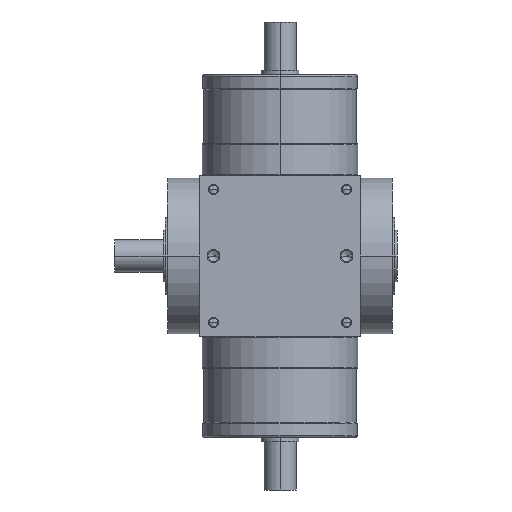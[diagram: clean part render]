
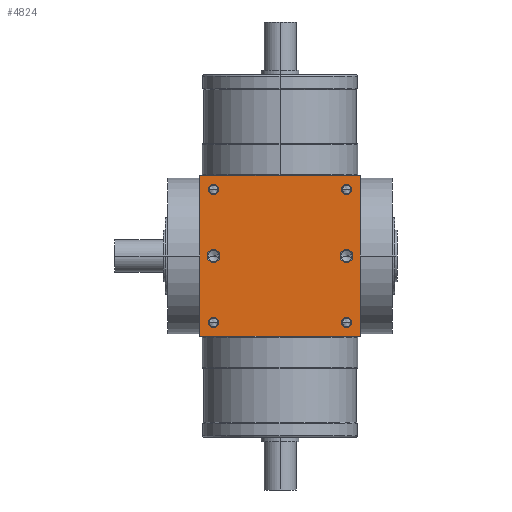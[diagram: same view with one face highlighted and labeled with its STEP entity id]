
A CAD part, front view. The second image highlights one B-rep face of the part: STEP entity #4824.
In plain terms, the highlighted planar face has unit normal (0, -1, 0).
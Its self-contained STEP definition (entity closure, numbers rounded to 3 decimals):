
#5=DIRECTION('',(1.,0.,0.));
#6=VECTOR('',#5,65.);
#7=CARTESIAN_POINT('',(-32.5,-32.5,-32.5));
#8=LINE('',#7,#6);
#165=DIRECTION('',(0.,0.,1.));
#166=VECTOR('',#165,65.);
#167=CARTESIAN_POINT('',(32.5,-32.5,-32.5));
#168=LINE('',#167,#166);
#219=DIRECTION('',(0.,0.,1.));
#220=VECTOR('',#219,65.);
#221=CARTESIAN_POINT('',(-32.5,-32.5,-32.5));
#222=LINE('',#221,#220);
#223=CARTESIAN_POINT('',(27.,-32.5,27.));
#224=DIRECTION('',(0.,1.,0.));
#225=DIRECTION('',(-1.,0.,0.));
#226=AXIS2_PLACEMENT_3D('',#223,#224,#225);
#228=CARTESIAN_POINT('',(27.,-32.5,27.));
#229=DIRECTION('',(0.,1.,0.));
#230=DIRECTION('',(1.,0.,0.));
#231=AXIS2_PLACEMENT_3D('',#228,#229,#230);
#233=CARTESIAN_POINT('',(-27.,-32.5,27.));
#234=DIRECTION('',(0.,1.,0.));
#235=DIRECTION('',(-1.,0.,0.));
#236=AXIS2_PLACEMENT_3D('',#233,#234,#235);
#238=CARTESIAN_POINT('',(-27.,-32.5,27.));
#239=DIRECTION('',(0.,1.,0.));
#240=DIRECTION('',(1.,0.,0.));
#241=AXIS2_PLACEMENT_3D('',#238,#239,#240);
#243=CARTESIAN_POINT('',(27.,-32.5,-27.));
#244=DIRECTION('',(0.,1.,0.));
#245=DIRECTION('',(-1.,0.,0.));
#246=AXIS2_PLACEMENT_3D('',#243,#244,#245);
#248=CARTESIAN_POINT('',(27.,-32.5,-27.));
#249=DIRECTION('',(0.,1.,0.));
#250=DIRECTION('',(1.,0.,0.));
#251=AXIS2_PLACEMENT_3D('',#248,#249,#250);
#253=CARTESIAN_POINT('',(-27.,-32.5,-27.));
#254=DIRECTION('',(0.,1.,0.));
#255=DIRECTION('',(-1.,0.,0.));
#256=AXIS2_PLACEMENT_3D('',#253,#254,#255);
#258=CARTESIAN_POINT('',(-27.,-32.5,-27.));
#259=DIRECTION('',(0.,1.,0.));
#260=DIRECTION('',(1.,0.,0.));
#261=AXIS2_PLACEMENT_3D('',#258,#259,#260);
#263=CARTESIAN_POINT('',(-27.,-32.5,0.));
#264=DIRECTION('',(0.,1.,0.));
#265=DIRECTION('',(1.,0.,0.));
#266=AXIS2_PLACEMENT_3D('',#263,#264,#265);
#268=CARTESIAN_POINT('',(-27.,-32.5,0.));
#269=DIRECTION('',(0.,1.,0.));
#270=DIRECTION('',(-1.,0.,0.));
#271=AXIS2_PLACEMENT_3D('',#268,#269,#270);
#273=CARTESIAN_POINT('',(27.,-32.5,0.));
#274=DIRECTION('',(0.,1.,0.));
#275=DIRECTION('',(1.,0.,0.));
#276=AXIS2_PLACEMENT_3D('',#273,#274,#275);
#278=CARTESIAN_POINT('',(27.,-32.5,0.));
#279=DIRECTION('',(0.,1.,0.));
#280=DIRECTION('',(-1.,0.,0.));
#281=AXIS2_PLACEMENT_3D('',#278,#279,#280);
#295=DIRECTION('',(1.,0.,0.));
#296=VECTOR('',#295,65.);
#297=CARTESIAN_POINT('',(-32.5,-32.5,32.5));
#298=LINE('',#297,#296);
#3846=CARTESIAN_POINT('',(-32.5,-32.5,-32.5));
#3848=VERTEX_POINT('',#3846);
#3849=CARTESIAN_POINT('',(32.5,-32.5,-32.5));
#3850=VERTEX_POINT('',#3849);
#3854=CARTESIAN_POINT('',(-32.5,-32.5,32.5));
#3856=VERTEX_POINT('',#3854);
#3857=CARTESIAN_POINT('',(32.5,-32.5,32.5));
#3858=VERTEX_POINT('',#3857);
#4029=CARTESIAN_POINT('',(24.95,-32.5,27.));
#4030=CARTESIAN_POINT('',(29.05,-32.5,27.));
#4031=VERTEX_POINT('',#4029);
#4032=VERTEX_POINT('',#4030);
#4037=CARTESIAN_POINT('',(-29.05,-32.5,27.));
#4038=CARTESIAN_POINT('',(-24.95,-32.5,27.));
#4039=VERTEX_POINT('',#4037);
#4040=VERTEX_POINT('',#4038);
#4045=CARTESIAN_POINT('',(24.95,-32.5,-27.));
#4046=CARTESIAN_POINT('',(29.05,-32.5,-27.));
#4047=VERTEX_POINT('',#4045);
#4048=VERTEX_POINT('',#4046);
#4053=CARTESIAN_POINT('',(-29.05,-32.5,-27.));
#4054=CARTESIAN_POINT('',(-24.95,-32.5,-27.));
#4055=VERTEX_POINT('',#4053);
#4056=VERTEX_POINT('',#4054);
#4395=CARTESIAN_POINT('',(-24.4,-32.5,0.));
#4396=CARTESIAN_POINT('',(-29.6,-32.5,0.));
#4397=VERTEX_POINT('',#4395);
#4398=VERTEX_POINT('',#4396);
#4403=CARTESIAN_POINT('',(29.6,-32.5,0.));
#4404=CARTESIAN_POINT('',(24.4,-32.5,0.));
#4405=VERTEX_POINT('',#4403);
#4406=VERTEX_POINT('',#4404);
#4776=CARTESIAN_POINT('',(-32.5,-32.5,-32.5));
#4777=DIRECTION('',(0.,-1.,0.));
#4778=DIRECTION('',(1.,0.,0.));
#4779=AXIS2_PLACEMENT_3D('',#4776,#4777,#4778);
#4780=PLANE('',#4779);
#4781=ORIENTED_EDGE('',*,*,#4610,.F.);
#4782=ORIENTED_EDGE('',*,*,#4659,.T.);
#4784=ORIENTED_EDGE('',*,*,#4783,.T.);
#4785=ORIENTED_EDGE('',*,*,#4738,.F.);
#4786=EDGE_LOOP('',(#4781,#4782,#4784,#4785));
#4787=FACE_OUTER_BOUND('',#4786,.F.);
#4789=ORIENTED_EDGE('',*,*,#4788,.F.);
#4791=ORIENTED_EDGE('',*,*,#4790,.F.);
#4792=EDGE_LOOP('',(#4789,#4791));
#4793=FACE_BOUND('',#4792,.F.);
#4795=ORIENTED_EDGE('',*,*,#4794,.F.);
#4797=ORIENTED_EDGE('',*,*,#4796,.F.);
#4798=EDGE_LOOP('',(#4795,#4797));
#4799=FACE_BOUND('',#4798,.F.);
#4801=ORIENTED_EDGE('',*,*,#4800,.F.);
#4803=ORIENTED_EDGE('',*,*,#4802,.F.);
#4804=EDGE_LOOP('',(#4801,#4803));
#4805=FACE_BOUND('',#4804,.F.);
#4807=ORIENTED_EDGE('',*,*,#4806,.F.);
#4809=ORIENTED_EDGE('',*,*,#4808,.F.);
#4810=EDGE_LOOP('',(#4807,#4809));
#4811=FACE_BOUND('',#4810,.F.);
#4813=ORIENTED_EDGE('',*,*,#4812,.F.);
#4815=ORIENTED_EDGE('',*,*,#4814,.F.);
#4816=EDGE_LOOP('',(#4813,#4815));
#4817=FACE_BOUND('',#4816,.F.);
#4819=ORIENTED_EDGE('',*,*,#4818,.F.);
#4821=ORIENTED_EDGE('',*,*,#4820,.F.);
#4822=EDGE_LOOP('',(#4819,#4821));
#4823=FACE_BOUND('',#4822,.F.);
#4824=ADVANCED_FACE('',(#4787,#4793,#4799,#4805,#4811,#4817,#4823),#4780,.T.);
#227=CIRCLE('',#226,2.05);
#232=CIRCLE('',#231,2.05);
#237=CIRCLE('',#236,2.05);
#242=CIRCLE('',#241,2.05);
#247=CIRCLE('',#246,2.05);
#252=CIRCLE('',#251,2.05);
#257=CIRCLE('',#256,2.05);
#262=CIRCLE('',#261,2.05);
#267=CIRCLE('',#266,2.6);
#272=CIRCLE('',#271,2.6);
#277=CIRCLE('',#276,2.6);
#282=CIRCLE('',#281,2.6);
#4610=EDGE_CURVE('',#3848,#3850,#8,.T.);
#4659=EDGE_CURVE('',#3848,#3856,#222,.T.);
#4738=EDGE_CURVE('',#3850,#3858,#168,.T.);
#4783=EDGE_CURVE('',#3856,#3858,#298,.T.);
#4788=EDGE_CURVE('',#4031,#4032,#227,.T.);
#4790=EDGE_CURVE('',#4032,#4031,#232,.T.);
#4794=EDGE_CURVE('',#4039,#4040,#237,.T.);
#4796=EDGE_CURVE('',#4040,#4039,#242,.T.);
#4800=EDGE_CURVE('',#4047,#4048,#247,.T.);
#4802=EDGE_CURVE('',#4048,#4047,#252,.T.);
#4806=EDGE_CURVE('',#4055,#4056,#257,.T.);
#4808=EDGE_CURVE('',#4056,#4055,#262,.T.);
#4812=EDGE_CURVE('',#4397,#4398,#267,.T.);
#4814=EDGE_CURVE('',#4398,#4397,#272,.T.);
#4818=EDGE_CURVE('',#4405,#4406,#277,.T.);
#4820=EDGE_CURVE('',#4406,#4405,#282,.T.);
